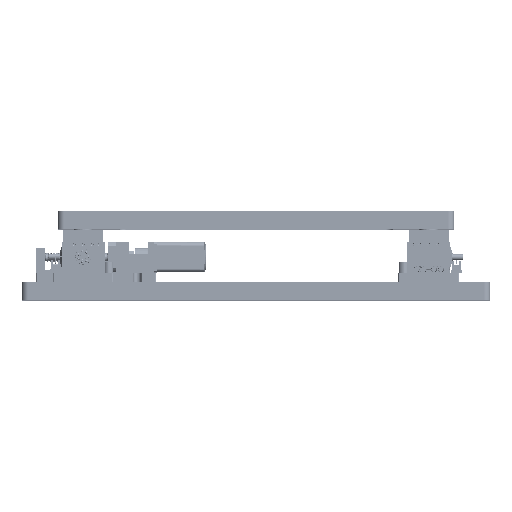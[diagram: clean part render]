
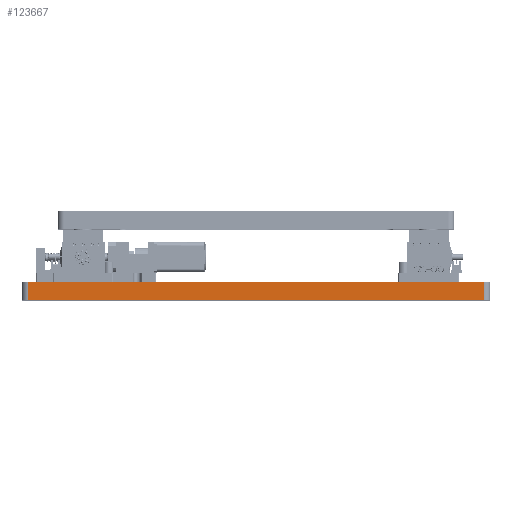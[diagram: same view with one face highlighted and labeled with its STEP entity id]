
A CAD part, top view. The second image highlights one B-rep face of the part: STEP entity #123667.
In plain terms, the highlighted planar face has unit normal (0, 0, 1).
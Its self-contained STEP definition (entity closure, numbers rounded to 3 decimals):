
#3601 = DIRECTION ( 'NONE',  ( 0., 0., -1. ) ) ;
#11465 = VECTOR ( 'NONE', #226327, 1000. ) ;
#13041 = VERTEX_POINT ( 'NONE', #191430 ) ;
#17187 = VERTEX_POINT ( 'NONE', #51075 ) ;
#37692 = PLANE ( 'NONE',  #61058 ) ;
#41598 = VECTOR ( 'NONE', #80990, 1000. ) ;
#51075 = CARTESIAN_POINT ( 'NONE',  ( -317., 25., 325. ) ) ;
#55437 = EDGE_CURVE ( 'NONE', #17187, #226385, #279694, .T. ) ;
#61058 = AXIS2_PLACEMENT_3D ( 'NONE', #368414, #3601, #109487 ) ;
#74128 = ORIENTED_EDGE ( 'NONE', *, *, #186207, .F. ) ;
#80990 = DIRECTION ( 'NONE',  ( 1., 0., 0. ) ) ;
#91123 = ORIENTED_EDGE ( 'NONE', *, *, #55437, .F. ) ;
#109487 = DIRECTION ( 'NONE',  ( -1., 0., 0. ) ) ;
#111063 = CARTESIAN_POINT ( 'NONE',  ( -317., 0., 325. ) ) ;
#117019 = EDGE_CURVE ( 'NONE', #13041, #216615, #385908, .T. ) ;
#123667 = ADVANCED_FACE ( 'NONE', ( #253915 ), #37692, .F. ) ;
#133423 = CARTESIAN_POINT ( 'NONE',  ( -317., 25., 325. ) ) ;
#151169 = CARTESIAN_POINT ( 'NONE',  ( 317., 25., 325. ) ) ;
#172149 = CARTESIAN_POINT ( 'NONE',  ( -317., 16.5, 325. ) ) ;
#186207 = EDGE_CURVE ( 'NONE', #13041, #17187, #256344, .T. ) ;
#191430 = CARTESIAN_POINT ( 'NONE',  ( -317., 0., 325. ) ) ;
#211158 = ORIENTED_EDGE ( 'NONE', *, *, #117019, .T. ) ;
#216615 = VERTEX_POINT ( 'NONE', #259674 ) ;
#226327 = DIRECTION ( 'NONE',  ( 0., 1., 0. ) ) ;
#226385 = VERTEX_POINT ( 'NONE', #151169 ) ;
#237502 = DIRECTION ( 'NONE',  ( 0., -1., 0. ) ) ;
#247747 = EDGE_LOOP ( 'NONE', ( #281834, #91123, #74128, #211158 ) ) ;
#253915 = FACE_OUTER_BOUND ( 'NONE', #247747, .T. ) ;
#256344 = LINE ( 'NONE', #172149, #11465 ) ;
#259674 = CARTESIAN_POINT ( 'NONE',  ( 317., 0., 325. ) ) ;
#263562 = CARTESIAN_POINT ( 'NONE',  ( 317., 16.5, 325. ) ) ;
#279694 = LINE ( 'NONE', #133423, #317792 ) ;
#281834 = ORIENTED_EDGE ( 'NONE', *, *, #305487, .F. ) ;
#296267 = VECTOR ( 'NONE', #237502, 1000. ) ;
#305487 = EDGE_CURVE ( 'NONE', #226385, #216615, #327791, .T. ) ;
#317792 = VECTOR ( 'NONE', #378115, 1000. ) ;
#327791 = LINE ( 'NONE', #263562, #296267 ) ;
#368414 = CARTESIAN_POINT ( 'NONE',  ( -317., 16.5, 325. ) ) ;
#378115 = DIRECTION ( 'NONE',  ( 1., 0., 0. ) ) ;
#385908 = LINE ( 'NONE', #111063, #41598 ) ;
